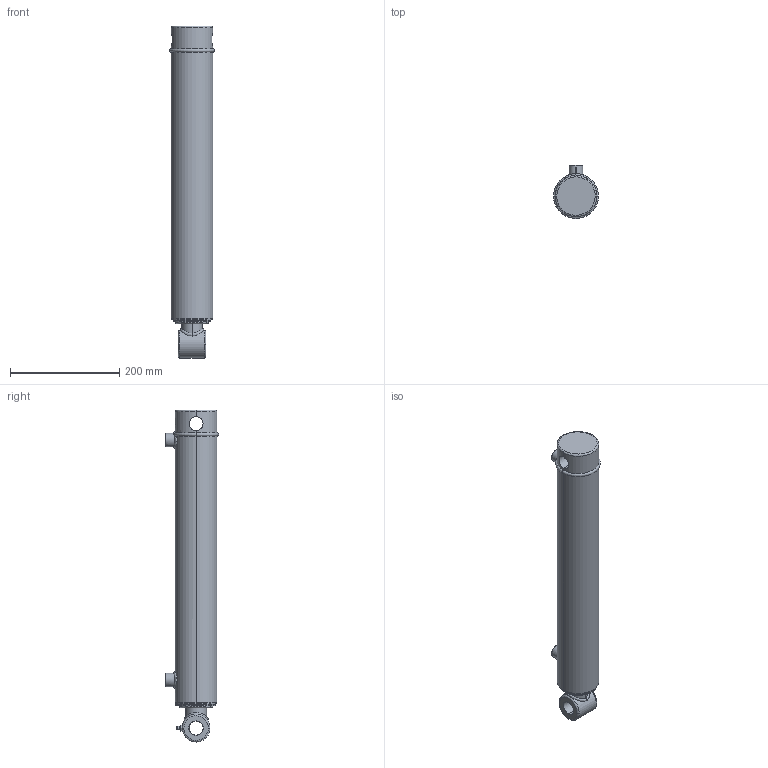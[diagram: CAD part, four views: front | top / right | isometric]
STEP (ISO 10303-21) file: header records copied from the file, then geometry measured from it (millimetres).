
FILE_DESCRIPTION (( 'STEP AP203' ), '1' );
FILE_NAME ('SB-C250150x406 (16).STEP', '2014-11-19T01:13:31', ( '' ), ( '' ), 'SwSTEP 2.0', 'SolidWorks 2014', '' );
FILE_SCHEMA (( 'CONFIG_CONTROL_DESIGN' ));
Length unit declared in the file: millimetre
Products named in the file (7): SB-C250250X406 (16) BODY; 2.5 INCH CIRCLIP; SB-C250150x406 (16) BODY; 16 SPARE; 18 NPT GREASE NIPPLE; SPARE 16; SB-C250150x406 (16)
Assembly tree (6 placements, depth 3):
  SB-C250150x406 (16)
    SB-C250150x406 (16) BODY
      SB-C250250X406 (16) BODY
      2.5 INCH CIRCLIP
    SPARE 16
      16 SPARE
      18 NPT GREASE NIPPLE
Bounding box: 82.2 x 97.2 x 607.4 mm (x, y, z)
Volume: 2798570 mm3; surface area: 257774.4 mm2
Topology: 4 solids, 4 shells, 135 faces, 315 edges, 197 vertices
Faces by surface type: cylinder 51, plane 29, cone 22, bspline 19, torus 12, sphere 2
Entity records: 10875 total; most frequent: CARTESIAN_POINT 7141, DIRECTION 640, ORIENTED_EDGE 622, EDGE_CURVE 311, AXIS2_PLACEMENT_3D 271, VERTEX_POINT 197, EDGE_LOOP 160, CIRCLE 144
